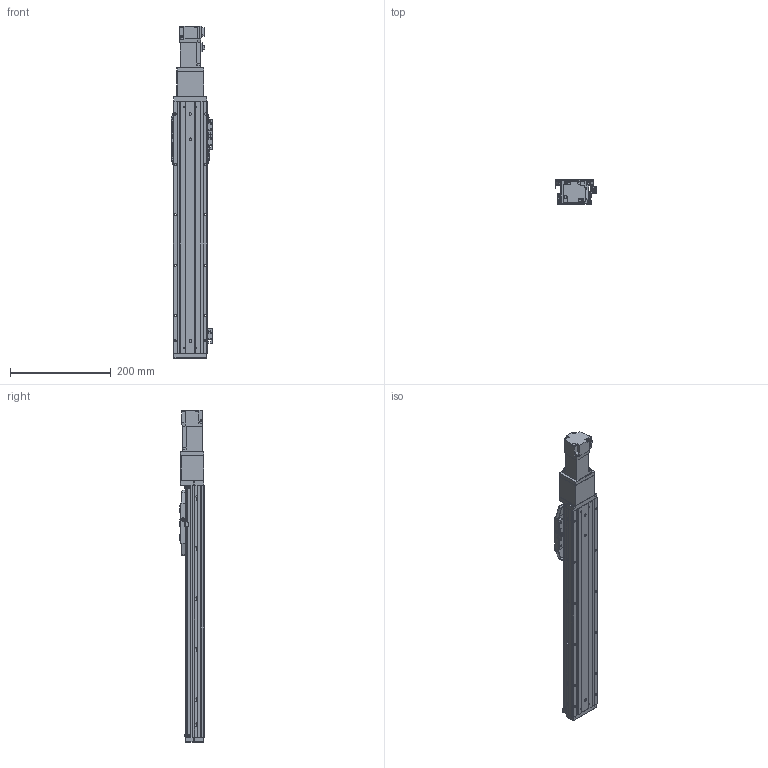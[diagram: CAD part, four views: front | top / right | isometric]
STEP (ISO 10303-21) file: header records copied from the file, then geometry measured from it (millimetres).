
FILE_DESCRIPTION (( 'STEP AP214' ), '1' );
FILE_NAME ('CTHA60-350-BC-M10-C4L.step', '2022-03-19T06:10:01', ( '微软用户' ), ( '微软中国' ), 'SwSTEP 2.0', 'SolidWorks 2020', '' );
FILE_SCHEMA (( 'AUTOMOTIVE_DESIGN' ));
Length unit declared in the file: millimetre
Products named in the file (19): CTHA60-017; GBT77-2000 M3×3; CTHA60-016; CTHA60-001_500; CTHA60-006; GB¨uT 70.2-M3¡Á6_M3¡Á6; CTHA60-031; CTHA60-021; GBT 70.1-M3℅6; CTHA60-027; CTHA60-004; HG-KR13（三菱）; EE_SX911P_R; CTHA60-350-BC-M10-C4L; GBT 70.1-M4×16; GBT 70.3-M3℅6; CTHA60-013; CTHA60-005; CTHA60-002
Assembly tree (57 placements, depth 2):
  CTHA60-350-BC-M10-C4L
    CTHA60-001_500
    CTHA60-004
    CTHA60-005
    GB¨uT 70.2-M3¡Á6_M3¡Á6  x10
    EE_SX911P_R  x3
    CTHA60-017  x3
    CTHA60-021  x2
    GBT 70.1-M4×16  x10
    GBT77-2000 M3×3  x6
    GBT 70.1-M3℅6  x6
    GBT 70.3-M3℅6  x6
    CTHA60-016  x2
    CTHA60-027
    CTHA60-013
    CTHA60-006
    HG-KR13（三菱）
    CTHA60-002
    CTHA60-031
Bounding box: 83.12 x 48 x 658.6 mm (x, y, z)
Volume: 1106948.2 mm3; surface area: 312030.1 mm2
Topology: 59 solids, 59 shells, 2435 faces, 5797 edges, 3551 vertices
Faces by surface type: plane 1414, cylinder 543, cone 358, torus 96, sphere 24
Entity records: 38464 total; most frequent: CARTESIAN_POINT 6480, DIRECTION 6382, ORIENTED_EDGE 6174, EDGE_CURVE 3087, LINE 2274, VECTOR 2274, AXIS2_PLACEMENT_3D 2054, VERTEX_POINT 1948
